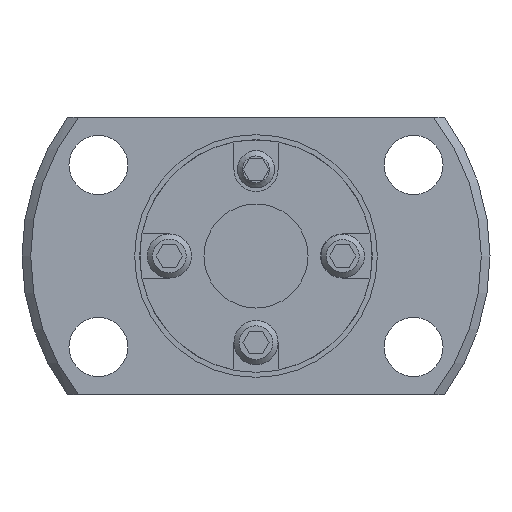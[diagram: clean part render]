
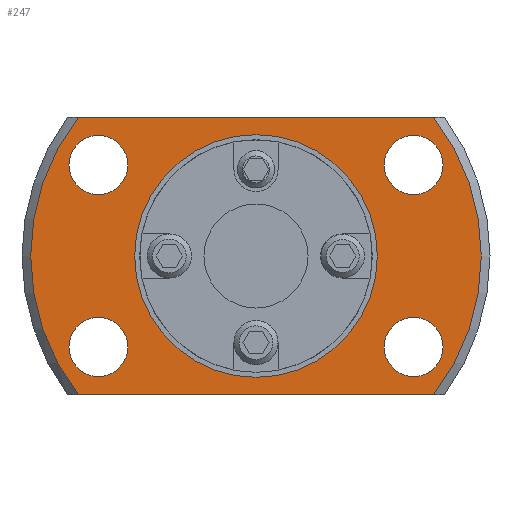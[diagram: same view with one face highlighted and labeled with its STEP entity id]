
A CAD part, left-side view. The second image highlights one B-rep face of the part: STEP entity #247.
In plain terms, the highlighted planar face has unit normal (-1, 0, 0).
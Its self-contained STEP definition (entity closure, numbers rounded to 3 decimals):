
#247 = ADVANCED_FACE( '', ( #439, #440, #441, #442, #443, #444 ), #445, .F. );
#439 = FACE_OUTER_BOUND( '', #646, .T. );
#440 = FACE_BOUND( '', #647, .T. );
#441 = FACE_BOUND( '', #648, .T. );
#442 = FACE_BOUND( '', #649, .T. );
#443 = FACE_BOUND( '', #650, .T. );
#444 = FACE_BOUND( '', #651, .T. );
#445 = PLANE( '', #652 );
#646 = EDGE_LOOP( '', ( #1230, #1231, #1232, #1233 ) );
#647 = EDGE_LOOP( '', ( #1234 ) );
#648 = EDGE_LOOP( '', ( #1235 ) );
#649 = EDGE_LOOP( '', ( #1236 ) );
#650 = EDGE_LOOP( '', ( #1237 ) );
#651 = EDGE_LOOP( '', ( #1238 ) );
#652 = AXIS2_PLACEMENT_3D( '', #1239, #1240, #1241 );
#1230 = ORIENTED_EDGE( '', *, *, #1292, .F. );
#1231 = ORIENTED_EDGE( '', *, *, #1424, .T. );
#1232 = ORIENTED_EDGE( '', *, *, #1430, .F. );
#1233 = ORIENTED_EDGE( '', *, *, #1291, .T. );
#1234 = ORIENTED_EDGE( '', *, *, #1395, .T. );
#1235 = ORIENTED_EDGE( '', *, *, #1412, .T. );
#1236 = ORIENTED_EDGE( '', *, *, #1414, .T. );
#1237 = ORIENTED_EDGE( '', *, *, #1416, .T. );
#1238 = ORIENTED_EDGE( '', *, *, #1458, .T. );
#1239 = CARTESIAN_POINT( '', ( 8., 6.7, 0. ) );
#1240 = DIRECTION( '', ( 1., 0., 0. ) );
#1241 = DIRECTION( '', ( 0., 0., -1. ) );
#1291 = EDGE_CURVE( '', #1468, #1480, #1482, .T. );
#1292 = EDGE_CURVE( '', #1483, #1480, #1484, .T. );
#1395 = EDGE_CURVE( '', #1661, #1661, #1662, .T. );
#1412 = EDGE_CURVE( '', #1690, #1690, #1691, .T. );
#1414 = EDGE_CURVE( '', #1694, #1694, #1695, .T. );
#1416 = EDGE_CURVE( '', #1698, #1698, #1699, .T. );
#1424 = EDGE_CURVE( '', #1483, #1712, #1714, .T. );
#1430 = EDGE_CURVE( '', #1468, #1712, #1721, .T. );
#1458 = EDGE_CURVE( '', #1763, #1763, #1764, .T. );
#1468 = VERTEX_POINT( '', #1778 );
#1480 = VERTEX_POINT( '', #1802 );
#1482 = LINE( '', #1807, #1808 );
#1483 = VERTEX_POINT( '', #1809 );
#1484 = CIRCLE( '', #1810, 13. );
#1661 = VERTEX_POINT( '', #2072 );
#1662 = CIRCLE( '', #2073, 1.7 );
#1690 = VERTEX_POINT( '', #2112 );
#1691 = CIRCLE( '', #2113, 1.7 );
#1694 = VERTEX_POINT( '', #2116 );
#1695 = CIRCLE( '', #2117, 1.7 );
#1698 = VERTEX_POINT( '', #2120 );
#1699 = CIRCLE( '', #2121, 1.7 );
#1712 = VERTEX_POINT( '', #2143 );
#1714 = LINE( '', #2148, #2149 );
#1721 = CIRCLE( '', #2156, 13. );
#1763 = VERTEX_POINT( '', #2213 );
#1764 = CIRCLE( '', #2214, 6.7 );
#1778 = CARTESIAN_POINT( '', ( 8., -10.247, 8. ) );
#1802 = CARTESIAN_POINT( '', ( 8., 10.247, 8. ) );
#1807 = CARTESIAN_POINT( '', ( 8., 6.7, 8. ) );
#1808 = VECTOR( '', #2232, 1000. );
#1809 = CARTESIAN_POINT( '', ( 8., 10.247, -8. ) );
#1810 = AXIS2_PLACEMENT_3D( '', #2233, #2234, #2235 );
#2072 = CARTESIAN_POINT( '', ( 8., -9.093, 3.55 ) );
#2073 = AXIS2_PLACEMENT_3D( '', #2375, #2376, #2377 );
#2112 = CARTESIAN_POINT( '', ( 8., -9.093, -6.95 ) );
#2113 = AXIS2_PLACEMENT_3D( '', #2404, #2405, #2406 );
#2116 = CARTESIAN_POINT( '', ( 8., 9.093, -6.95 ) );
#2117 = AXIS2_PLACEMENT_3D( '', #2410, #2411, #2412 );
#2120 = CARTESIAN_POINT( '', ( 8., 9.093, 3.55 ) );
#2121 = AXIS2_PLACEMENT_3D( '', #2416, #2417, #2418 );
#2143 = CARTESIAN_POINT( '', ( 8., -10.247, -8. ) );
#2148 = CARTESIAN_POINT( '', ( 8., 6.7, -8. ) );
#2149 = VECTOR( '', #2425, 1000. );
#2156 = AXIS2_PLACEMENT_3D( '', #2441, #2442, #2443 );
#2213 = CARTESIAN_POINT( '', ( 8., 0., -6.7 ) );
#2214 = AXIS2_PLACEMENT_3D( '', #2495, #2496, #2497 );
#2232 = DIRECTION( '', ( 0., 1., 0. ) );
#2233 = CARTESIAN_POINT( '', ( 8., 0., 0. ) );
#2234 = DIRECTION( '', ( 1., 0., 0. ) );
#2235 = DIRECTION( '', ( 0., 0., -1. ) );
#2375 = CARTESIAN_POINT( '', ( 8., -9.093, 5.25 ) );
#2376 = DIRECTION( '', ( 1., 0., 0. ) );
#2377 = DIRECTION( '', ( 0., 0., -1. ) );
#2404 = CARTESIAN_POINT( '', ( 8., -9.093, -5.25 ) );
#2405 = DIRECTION( '', ( 1., 0., 0. ) );
#2406 = DIRECTION( '', ( 0., 0., -1. ) );
#2410 = CARTESIAN_POINT( '', ( 8., 9.093, -5.25 ) );
#2411 = DIRECTION( '', ( 1., 0., 0. ) );
#2412 = DIRECTION( '', ( 0., 0., -1. ) );
#2416 = CARTESIAN_POINT( '', ( 8., 9.093, 5.25 ) );
#2417 = DIRECTION( '', ( 1., 0., 0. ) );
#2418 = DIRECTION( '', ( 0., 0., -1. ) );
#2425 = DIRECTION( '', ( 0., -1., 0. ) );
#2441 = CARTESIAN_POINT( '', ( 8., 0., 0. ) );
#2442 = DIRECTION( '', ( 1., 0., 0. ) );
#2443 = DIRECTION( '', ( 0., 0., -1. ) );
#2495 = CARTESIAN_POINT( '', ( 8., 0., 0. ) );
#2496 = DIRECTION( '', ( 1., 0., 0. ) );
#2497 = DIRECTION( '', ( 0., 0., -1. ) );
